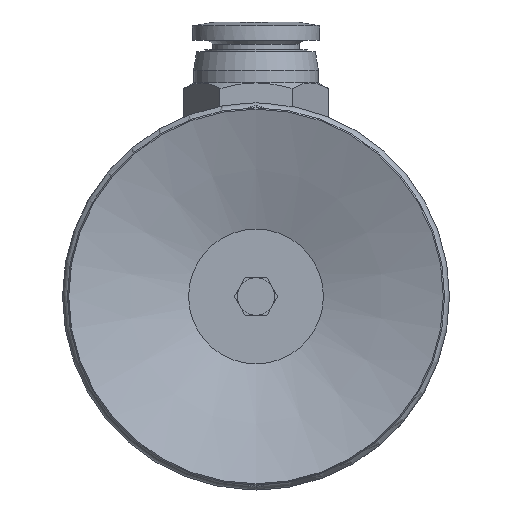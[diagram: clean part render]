
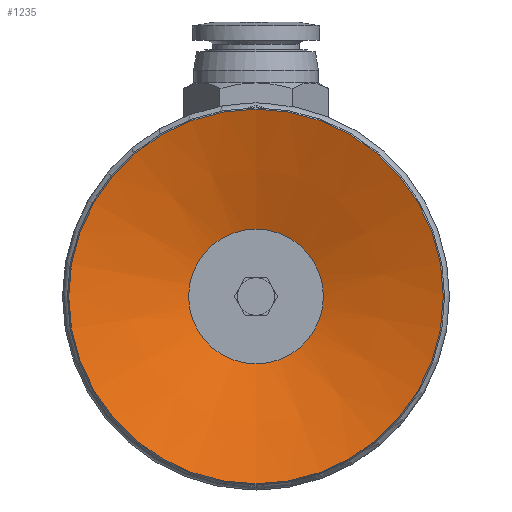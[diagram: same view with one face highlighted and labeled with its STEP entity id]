
A CAD part, front view. The second image highlights one B-rep face of the part: STEP entity #1235.
In plain terms, the highlighted conical face has half-angle 71.075 degrees and reference radius 15 mm.
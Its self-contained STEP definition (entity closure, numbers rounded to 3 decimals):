
#1235=ADVANCED_FACE('',(#3075,#3076),#3077,.F.);
#3075=FACE_BOUND('',#5823,.T.);
#3076=FACE_OUTER_BOUND('',#5824,.T.);
#3077=CONICAL_SURFACE('',#5825,15.0,1.24);
#5823=EDGE_LOOP('',(#9369));
#5824=EDGE_LOOP('',(#9370));
#5825=AXIS2_PLACEMENT_3D('',#9371,#9372,#9373);
#9369=ORIENTED_EDGE('',*,*,#16458,.T.);
#9370=ORIENTED_EDGE('',*,*,#16459,.T.);
#9371=CARTESIAN_POINT('',(0.,0.,0.0));
#9372=DIRECTION('',(0.0,0.,-1.0));
#9373=DIRECTION('',(0.0,1.0,0.));
#16458=EDGE_CURVE('',#20180,#20180,#20181,.T.);
#16459=EDGE_CURVE('',#20182,#20182,#20183,.T.);
#20180=VERTEX_POINT('',#26749);
#20181=CIRCLE('',#26750,5.4);
#20182=VERTEX_POINT('',#26751);
#20183=CIRCLE('',#26752,15.0);
#26749=CARTESIAN_POINT('',(-5.4,0.,3.291));
#26750=AXIS2_PLACEMENT_3D('',#32465,#32466,#32467);
#26751=CARTESIAN_POINT('',(0.,15.0,0.));
#26752=AXIS2_PLACEMENT_3D('',#32468,#32469,#32470);
#32465=CARTESIAN_POINT('',(0.,0.,3.291));
#32466=DIRECTION('',(0.,0.0,1.0));
#32467=DIRECTION('',(-1.0,0.0,0.));
#32468=CARTESIAN_POINT('',(0.,0.,0.0));
#32469=DIRECTION('',(0.0,0.,-1.0));
#32470=DIRECTION('',(0.0,1.0,0.));
